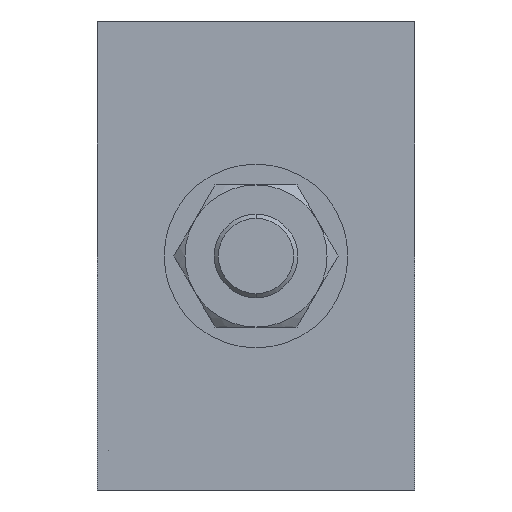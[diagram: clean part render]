
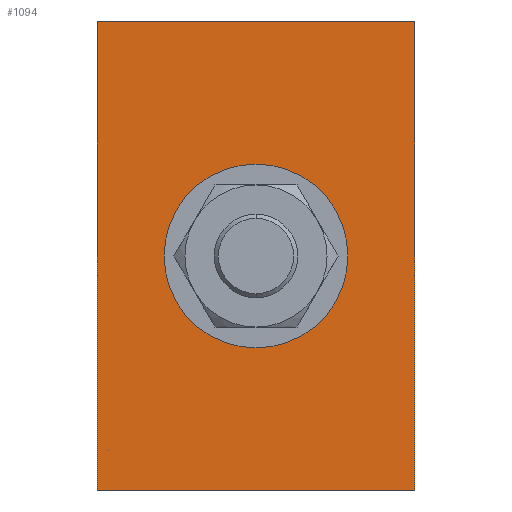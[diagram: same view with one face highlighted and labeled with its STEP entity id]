
A CAD part, left-side view. The second image highlights one B-rep face of the part: STEP entity #1094.
In plain terms, the highlighted planar face has unit normal (-1, 0, 0).
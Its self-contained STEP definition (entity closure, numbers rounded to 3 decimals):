
#76 = EDGE_CURVE ( 'NONE', #2275, #2906, #1663, .T. ) ;
#79 = FACE_BOUND ( 'NONE', #641, .T. ) ;
#113 = CARTESIAN_POINT ( 'NONE',  ( -29., 19., 28. ) ) ;
#159 = VECTOR ( 'NONE', #515, 1000. ) ;
#212 = DIRECTION ( 'NONE',  ( 0., 1., 0. ) ) ;
#325 = DIRECTION ( 'NONE',  ( 1., 0., 0. ) ) ;
#346 = DIRECTION ( 'NONE',  ( -1., 0., 0. ) ) ;
#470 = CARTESIAN_POINT ( 'NONE',  ( -29., -19., -28. ) ) ;
#504 = CARTESIAN_POINT ( 'NONE',  ( -29., 19., 28. ) ) ;
#515 = DIRECTION ( 'NONE',  ( 0., 0., 1. ) ) ;
#574 = ORIENTED_EDGE ( 'NONE', *, *, #2898, .F. ) ;
#637 = VECTOR ( 'NONE', #2812, 1000. ) ;
#641 = EDGE_LOOP ( 'NONE', ( #2249, #1750 ) ) ;
#682 = PLANE ( 'NONE',  #1521 ) ;
#822 = DIRECTION ( 'NONE',  ( 0., 0., 1. ) ) ;
#895 = ORIENTED_EDGE ( 'NONE', *, *, #1927, .F. ) ;
#959 = EDGE_CURVE ( 'NONE', #1673, #3003, #1649, .T. ) ;
#1047 = DIRECTION ( 'NONE',  ( 1., 0., 0. ) ) ;
#1061 = DIRECTION ( 'NONE',  ( 0., 0., 1. ) ) ;
#1071 = LINE ( 'NONE', #2968, #2420 ) ;
#1094 = ADVANCED_FACE ( 'NONE', ( #2092, #79 ), #682, .T. ) ;
#1417 = CARTESIAN_POINT ( 'NONE',  ( -29., -19., 28. ) ) ;
#1518 = VERTEX_POINT ( 'NONE', #1987 ) ;
#1521 = AXIS2_PLACEMENT_3D ( 'NONE', #2864, #346, #1061 ) ;
#1581 = LINE ( 'NONE', #113, #159 ) ;
#1641 = CARTESIAN_POINT ( 'NONE',  ( -29., 0., 0. ) ) ;
#1644 = VECTOR ( 'NONE', #212, 1000. ) ;
#1649 = CIRCLE ( 'NONE', #1952, 11. ) ;
#1663 = LINE ( 'NONE', #2422, #637 ) ;
#1671 = CARTESIAN_POINT ( 'NONE',  ( -29., 0., 11. ) ) ;
#1673 = VERTEX_POINT ( 'NONE', #2920 ) ;
#1750 = ORIENTED_EDGE ( 'NONE', *, *, #959, .T. ) ;
#1927 = EDGE_CURVE ( 'NONE', #2186, #2275, #1581, .T. ) ;
#1933 = AXIS2_PLACEMENT_3D ( 'NONE', #1641, #325, #2605 ) ;
#1952 = AXIS2_PLACEMENT_3D ( 'NONE', #2361, #1047, #822 ) ;
#1987 = CARTESIAN_POINT ( 'NONE',  ( -29., -19., -28. ) ) ;
#2092 = FACE_OUTER_BOUND ( 'NONE', #2713, .T. ) ;
#2154 = CIRCLE ( 'NONE', #1933, 11. ) ;
#2185 = EDGE_CURVE ( 'NONE', #3003, #1673, #2154, .T. ) ;
#2186 = VERTEX_POINT ( 'NONE', #2267 ) ;
#2193 = ORIENTED_EDGE ( 'NONE', *, *, #76, .F. ) ;
#2249 = ORIENTED_EDGE ( 'NONE', *, *, #2185, .T. ) ;
#2254 = DIRECTION ( 'NONE',  ( 0., 0., -1. ) ) ;
#2267 = CARTESIAN_POINT ( 'NONE',  ( -29., 19., -28. ) ) ;
#2275 = VERTEX_POINT ( 'NONE', #504 ) ;
#2361 = CARTESIAN_POINT ( 'NONE',  ( -29., 0., 0. ) ) ;
#2420 = VECTOR ( 'NONE', #2254, 1000. ) ;
#2422 = CARTESIAN_POINT ( 'NONE',  ( -29., -19., 28. ) ) ;
#2492 = EDGE_CURVE ( 'NONE', #1518, #2186, #2831, .T. ) ;
#2605 = DIRECTION ( 'NONE',  ( 0., 0., 1. ) ) ;
#2713 = EDGE_LOOP ( 'NONE', ( #2193, #895, #2769, #574 ) ) ;
#2769 = ORIENTED_EDGE ( 'NONE', *, *, #2492, .F. ) ;
#2812 = DIRECTION ( 'NONE',  ( 0., -1., 0. ) ) ;
#2831 = LINE ( 'NONE', #470, #1644 ) ;
#2864 = CARTESIAN_POINT ( 'NONE',  ( -29., 0., 0. ) ) ;
#2898 = EDGE_CURVE ( 'NONE', #2906, #1518, #1071, .T. ) ;
#2906 = VERTEX_POINT ( 'NONE', #1417 ) ;
#2920 = CARTESIAN_POINT ( 'NONE',  ( -29., 0., -11. ) ) ;
#2968 = CARTESIAN_POINT ( 'NONE',  ( -29., -19., 28. ) ) ;
#3003 = VERTEX_POINT ( 'NONE', #1671 ) ;
